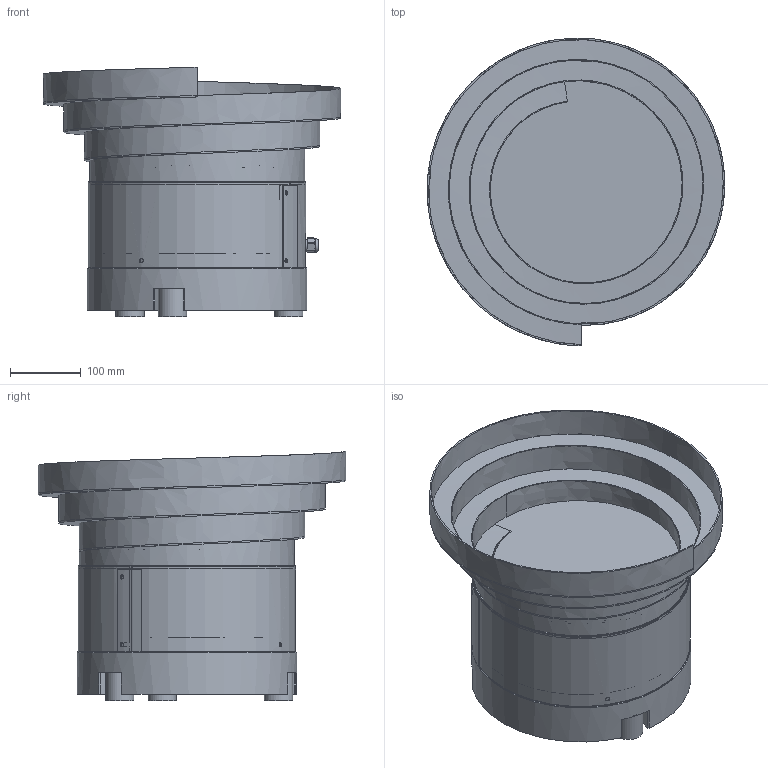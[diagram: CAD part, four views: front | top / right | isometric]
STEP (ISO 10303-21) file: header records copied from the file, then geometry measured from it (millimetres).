
FILE_DESCRIPTION(/* description */ (''),/* implementation_level */ '2;1');
FILE_NAME(/* name */ 'C:\Users\Rademacher\Dropbox neu\Dropbox\Konstruktion\Kaufteile\530-VWF-3D\530-228-1100-00-VWF10-Stufenaufsatz-links.stp',/* time_stamp */ '2020-01-14T11:52:04+01:00',/* author */ ('Rademacher'),/* organization */ (''),/* preprocessor_version */ 'ST-DEVELOPER v17',/* originating_system */ 'Autodesk Inventor 2019',/* authorisation */ '');
FILE_SCHEMA (('AUTOMOTIVE_DESIGN { 1 0 10303 214 3 1 1 }'));
Length unit declared in the file: millimetre
Products named in the file (11): 530-228-1100-00-VWF10-L-Layout; 530-228-1100-01-Unterteil; 530-228-1100-02-Oberteil; 530-228-1100-09-Abdeckung; 530-228-1100-08-Mantel; 530-228-1100-10-Lasche-klein; 530-228-1100-11 Mantelhälfte; 530-228-1100-12-Lasche; Elastikpuffer-40-40-M8; SKINTOP® K-M 16x1,5 ATEX      Art. Nr. 54115210(F=7) Kunststoff; VWF10 Stufenaufsatz links
Assembly tree (14 placements, depth 3):
  530-228-1100-00-VWF10-L-Layout
    530-228-1100-01-Unterteil
    530-228-1100-02-Oberteil
    530-228-1100-09-Abdeckung
      530-228-1100-08-Mantel
      530-228-1100-10-Lasche-klein  x2
      530-228-1100-11 Mantelhälfte
      530-228-1100-12-Lasche  x2
    Elastikpuffer-40-40-M8  x3
    SKINTOP® K-M 16x1,5 ATEX      Art. Nr. 54115210(F=7) Kunststoff
    VWF10 Stufenaufsatz links
Bounding box: 420.17 x 434.83 x 352.5 mm (x, y, z)
Volume: 7188054.6 mm3; surface area: 1299414 mm2
Topology: 13 solids, 14 shells, 320 faces, 903 edges, 622 vertices
Faces by surface type: plane 117, cylinder 108, cone 70, bspline 21, torus 4
Full cylindrical faces by diameter (mm): 3.242 x2, 4.917 x8, 5 x20, 6.647 x3, 6.8 x19, 7 x1, 9 x1, 13.877 x1, 16 x1, 16.7 x1, 19 x1, 40 x3, 100 x1, 190 x1, 210 x1, 300 x2, 304 x2, 307 x1, 310 x1
Entity records: 18380 total; most frequent: CARTESIAN_POINT 10200, DIRECTION 1695, ORIENTED_EDGE 1578, EDGE_CURVE 789, AXIS2_PLACEMENT_3D 669, VERTEX_POINT 579, CIRCLE 370, EDGE_LOOP 368
